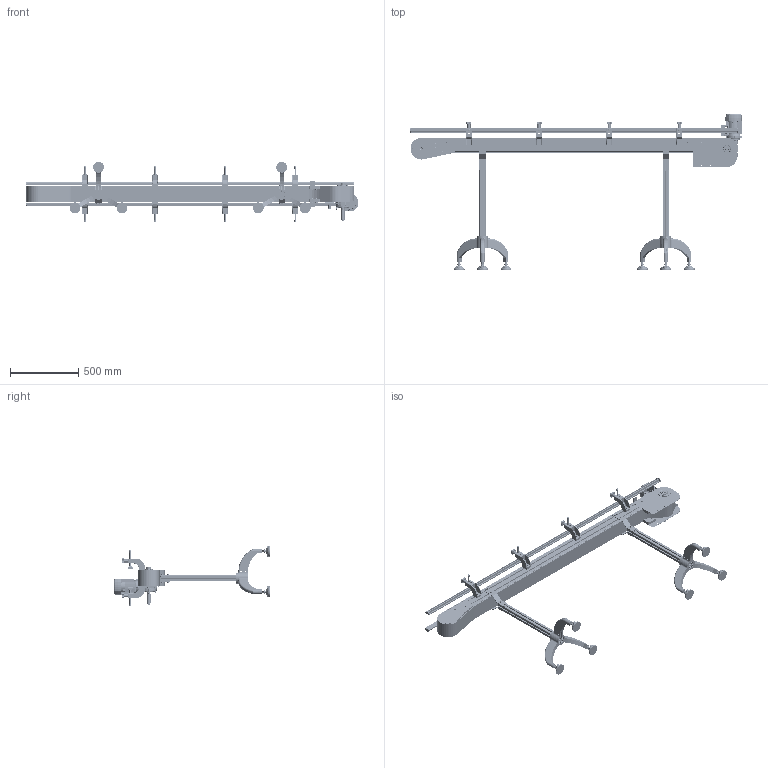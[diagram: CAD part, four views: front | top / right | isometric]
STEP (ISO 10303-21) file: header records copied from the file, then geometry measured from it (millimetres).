
FILE_DESCRIPTION (( 'STEP AP203' ), '1' );
FILE_NAME ('NASTRO_CATENA.step', '2026-04-28T08:21:50', ( 'Utente Windows' ), ( '' ), 'SwSTEP 2.0', 'SolidWorks 2024', '' );
FILE_SCHEMA (( 'CONFIG_CONTROL_DESIGN' ));
Length unit declared in the file: millimetre
Products named in the file (67): 084.408.001; CH05P_SX; SUPPORTO_SPONDA; 2000.450.201-1S; VITI TE UNI 5739_M8x20 UNI 5739; 2000.450.002; 084.312.006; 2000.450.101-1; 2000.325.206-1; 084.201.012-1; FLANGIA_GAMBE_KP450; GRANI A PUNTA CONICA UNI 5927_M8x16 UNI 5927; 084.302.000 DADI ALUSIC 13x13-1_084.302.004; VITI TCEI UNI 5931 INOX_M6x30 UNI 5931 INOX; SPONDA_DIRITTO_Default<A macchina>; PROFILO POLIZENE LARGO; 2000.001.006-2; 2000.001.208-1; 2000.450.103-2; SBPF205; CATENA_DIRITTO; NASTRO_CATENA; 084.301.000 VITI ALUSIC_084.301.002; TRIPIEDE_GAMBE_KP325; CHIAVETTE_A 8x7x70 UNI 6604-69; VITI TE UNI 5739 INOX_M6x30 UNI 5739 INOX; 084.802.027; 084.711.005; 663151_NS880T12R25; 2000.450.620L; RONDELLE FASCIA LARGA UNI 6593 INOX_8.4x32 UNI 6593 INOX; VITI TE UNI 5739 INOX_M8x20 UNI 5739 INOX; 084.808.004; GRANI A PUNTA PIATTA UNI 5923_M8x20 UNI 5923; 2000.882.750; K450_R_P; 084.711.002; CHIAVETTE_A 8x7x50 UNI 6604-69; VITI TE UNI 5739 INOX_M8x16 UNI 5739 INOX; 2000.001.209-1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
Assembly tree (175 placements, depth 3):
  NASTRO_CATENA
    K450_1_Default<A macchina>
    K450_DIR_49_P_SX_MOTORE A DESTRA
      084.802.027
      2000.001.006-2  x2
      2000.001.001  x2
      2000.001.004-3
      2000.001.003-3
      2000.001.011
      2000.450.101-1
      2000.450.001  x2
      2000.450.103-2
      2000.450.104-2
      2000.450.002  x2
      084.808.004
      PU008.012.025N
      CHIAVETTE_A 8x7x70 UNI 6604-69
      CHIAVETTE_A 8x7x50 UNI 6604-69
      SBPF205  x2
      663151_NS880T12R25
      VITI TSEI UNI 5933 INOX_0410UNI5933A2  x8
      GRANI A PUNTA CONICA UNI 5927_M8x16 UNI 5927  x8
      VITI TCEI UNI 5931 INOX_M6x30 UNI 5931 INOX  x2
      VITI TE UNI 5739 INOX_M8x20 UNI 5739 INOX
      RONDELLE FASCIA LARGA UNI 6593 INOX_8.4x32 UNI 6593 INOX
      GRANI A PUNTA PIATTA UNI 5923_M8x20 UNI 5923
      RONDELLE FASCIA LARGA UNI 6593 INOX_8.4x24 UNI 6593 INOX
      VITI TE UNI 5739 INOX_M8x16 UNI 5739 INOX  x7
      DADI ESAGONALI AUTOBLOCCANTI UNI 7473 INOX_M6 UNI 7473 INOX  x4
      084.312.006  x6
      VITI TE UNI 5739 INOX_M6x20 UNI 5739 INOX  x6
      VITI TE UNI 5739 INOX_M6x30 UNI 5739 INOX  x4
      VITI TE UNI 5739 INOX_M6x12 UNI 5739 INOX  x4
    K450_R_P
      2000.001.206-2
      2000.001.207-2
      2000.450.201-1S
      2000.001.208-1
      2000.001.209-1
      2000.450.003  x2
      2000.001.001  x2
      2000.450.001  x2
      2000.325.206-1
      PROFILO POLIZENE LARGO  x2
      VITI TSEI UNI 5933 INOX_0620UNI5933A2  x8
      VITI TSEI UNI 5933 INOX_0410UNI5933A2  x14
      VITI TSEI UNI 5933 INOX_0820UNI5933A2  x2
      GRANI A PUNTA CONICA UNI 5927 INOX_M8x14 UNI 5927 INOX  x8
      25UNI7435  x2
    GAMBE_KP325_Default<A macchina>  x2
    FLANGIA_GAMBE_KP450  x4
      2000.450.620L
      084.302.016
      084.301.000 VITI ALUSIC_084.301.002
      084.302.000 DADI ALUSIC 13x13-1_084.302.004
      RONDELLE UNI 6592_8.4x17 UNI 6592
    TRIPIEDE_GAMBE_KP325  x2
      084.402.004
      084.408.001
    084.201.012-1  x2
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Bounding box: 2439.3 x 1142.67 x 444.56 mm (x, y, z)
Volume: 22782241.3 mm3; surface area: 9084804.7 mm2
Topology: 244 solids, 253 shells, 10425 faces, 25047 edges, 15196 vertices
Faces by surface type: cylinder 3708, plane 3573, cone 1999, bspline 590, torus 507, sphere 48
Entity records: 164755 total; most frequent: CARTESIAN_POINT 47928, DIRECTION 22793, ORIENTED_EDGE 22198, EDGE_CURVE 11110, AXIS2_PLACEMENT_3D 8599, VERTEX_POINT 6879, LINE 5595, VECTOR 5595
